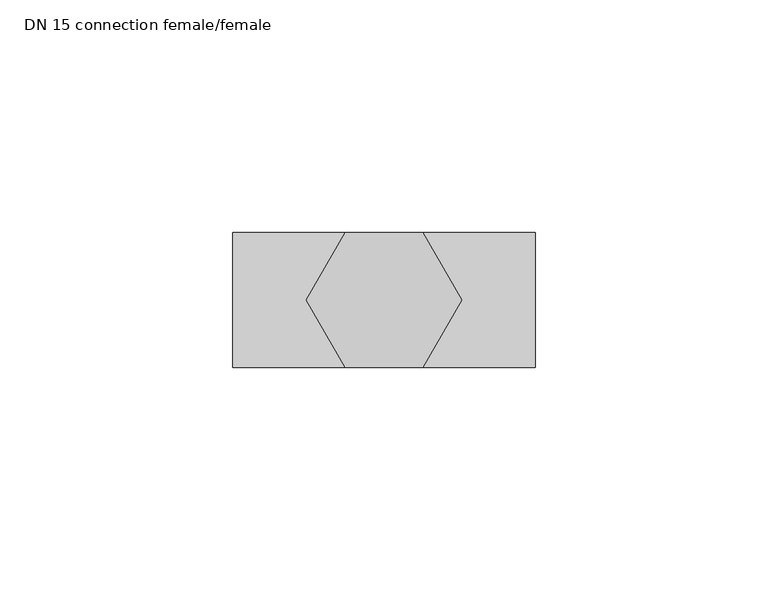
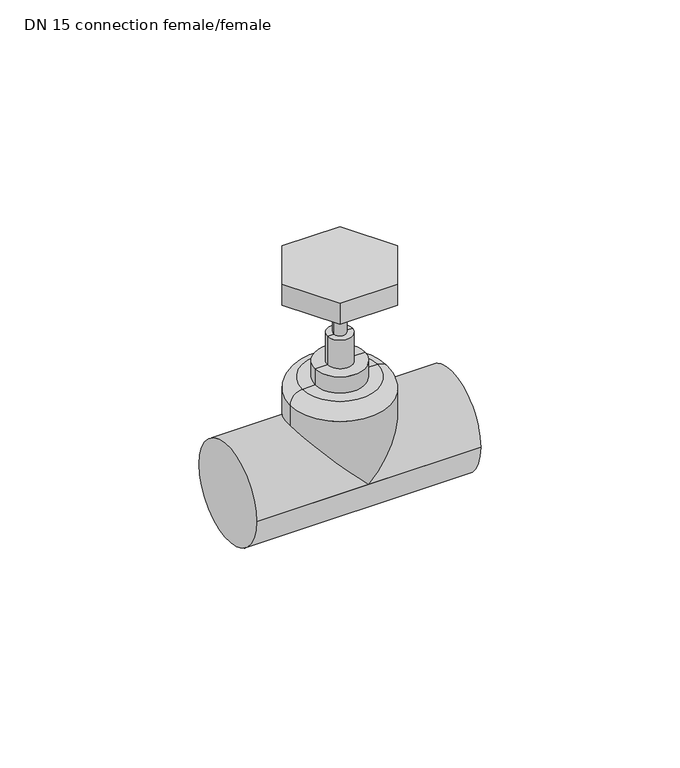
"""IFC4 building model written with IfcOpenShell, lengths in millimetres: valve geometry, PP-R_Valve : DN 15 connection female/female."""

from ifc_helpers import new_model, si_unit, point, frame, origin, place, context, project, spatial, polyline, circle_curve, ellipse_curve, trimmed, outline, extrude, source, transform, mapped, element, save
from ifc_brep_helpers import plane_surface, cylinder_surface, revolved_surface, advanced_brep


def dn_15_connection_female_female_5b43c6f1(model_context):
    return source(origin(), model_context, "Body", "SolidModel", [
        extrude(outline(polyline([(66.2588206, 0.0), (57.8872417, -14.5), (41.1440838, -14.5), (32.7725049, 0.0), (41.1440838, 14.5), (57.8872417, 14.5), (66.2588206, 0.0)])), frame((0.0, 0.0, 52.0), z_axis=(0.0, 0.0, 1.0), x_axis=(1.0, 0.0, 0.0)), (0.0, 0.0, 1.0), 6.5),
        advanced_brep(
        [(49.5156627, 0.0, 52.0), (51.3281627, 0.0, 52.0), (47.7031627, 0.0, 52.0), (45.8906627, 0.0, 29.25), (53.1406627, 0.0, 29.25), (49.5156627, 0.0, 29.25), (45.8906627, 0.0, 37.875), (53.1406627, 0.0, 37.875), (47.7031627, 0.0, 37.875), (51.3281627, 0.0, 37.875)],
        [
            (0, 1),
            (1, 2, circle_curve(frame((49.5156627, 0.0, 52.0), z_axis=(0.0, 0.0, 1.0), x_axis=(1.0, 0.0, 0.0)), 1.8125)),
            (2, 0),
            (2, 1, circle_curve(frame((49.5156627, 0.0, 52.0), z_axis=(0.0, 0.0, 1.0), x_axis=(1.0, 0.0, 0.0)), 1.8125)),
            (3, 4, circle_curve(frame((49.5156627, 0.0, 29.25), z_axis=(0.0, 0.0, -1.0), x_axis=(1.0, 0.0, 0.0)), 3.625)),
            (4, 5),
            (5, 3),
            (4, 3, circle_curve(frame((49.5156627, 0.0, 29.25), z_axis=(0.0, 0.0, -1.0), x_axis=(1.0, 0.0, 0.0)), 3.625)),
            (6, 7, circle_curve(frame((49.5156627, 0.0, 37.875), z_axis=(0.0, 0.0, -1.0), x_axis=(1.0, 0.0, 0.0)), 3.625)),
            (7, 4),
            (3, 6),
            (7, 6, circle_curve(frame((49.5156627, 0.0, 37.875), z_axis=(0.0, 0.0, -1.0), x_axis=(1.0, 0.0, 0.0)), 3.625)),
            (8, 9, circle_curve(frame((49.5156627, 0.0, 37.875), z_axis=(0.0, 0.0, -1.0), x_axis=(1.0, 0.0, 0.0)), 1.8125)),
            (9, 7),
            (6, 8),
            (9, 8, circle_curve(frame((49.5156627, 0.0, 37.875), z_axis=(0.0, 0.0, -1.0), x_axis=(1.0, 0.0, 0.0)), 1.8125)),
            (1, 9),
            (8, 2),
        ],
        [
            plane_surface(frame((49.5156627, 0.0, 52.0), z_axis=(0.0, 0.0, 1.0), x_axis=(1.0, 0.0, 0.0))),
            plane_surface(frame((49.5156627, 0.0, 29.25), z_axis=(0.0, 0.0, -1.0), x_axis=(1.0, 0.0, 0.0))),
            cylinder_surface(frame((49.5156627, 0.0, 142.0), z_axis=(0.0, 0.0, 1.0), x_axis=(1.0, 0.0, 0.0)), 3.625),
            plane_surface(frame((49.5156627, 0.0, 37.875), z_axis=(0.0, 0.0, 1.0), x_axis=(1.0, 0.0, 0.0))),
            cylinder_surface(frame((49.5156627, 0.0, 142.0), z_axis=(0.0, 0.0, 1.0), x_axis=(1.0, 0.0, 0.0)), 1.8125),
        ],
        [
            (0, [[1, 2, 3]]),
            (0, [[-3, 4, -1]]),
            (1, [[5, 6, 7]]),
            (1, [[8, -7, -6]]),
            (2, [[9, 10, -5, 11]]),
            (2, [[12, -11, -8, -10]]),
            (3, [[13, 14, -9, 15]]),
            (3, [[16, -15, -12, -14]]),
            (4, [[-2, 17, -13, 18]]),
            (4, [[-4, -18, -16, -17]]),
        ],
    ),
        advanced_brep(
        [(49.5156627, 0.0, 29.25), (56.7656627, 0.0, 29.25), (42.2656627, 0.0, 29.25), (38.6406627, 0.0, 24.25), (42.2656627, 0.0, 24.25), (56.7656627, 0.0, 24.25), (60.3906627, 0.0, 24.25), (64.0156627, 0.0, 20.625), (35.0156627, 0.0, 20.625), (64.0156627, 0.0, 14.5), (49.5156627, 14.5, 0.0), (35.0156627, 0.0, 14.5), (49.5156627, -14.5, 0.0), (82.0156627, -14.5, 0.0), (82.0156627, 14.5, 0.0), (17.0156627, -14.5, 0.0), (17.0156627, 14.5, 0.0)],
        [
            (0, 1),
            (1, 2, circle_curve(frame((49.5156627, 0.0, 29.25), z_axis=(0.0, 0.0, 1.0), x_axis=(1.0, 0.0, 0.0)), 7.25)),
            (2, 0),
            (2, 1, circle_curve(frame((49.5156627, 0.0, 29.25), z_axis=(0.0, 0.0, 1.0), x_axis=(1.0, 0.0, 0.0)), 7.25)),
            (3, 4),
            (4, 5, circle_curve(frame((49.5156627, 0.0, 24.25), z_axis=(0.0, 0.0, -1.0), x_axis=(1.0, 0.0, 0.0)), 7.25)),
            (5, 6),
            (6, 3, circle_curve(frame((49.5156627, 0.0, 24.25), z_axis=(0.0, 0.0, 1.0), x_axis=(1.0, 0.0, 0.0)), 10.875)),
            (3, 6, circle_curve(frame((49.5156627, 0.0, 24.25), z_axis=(0.0, 0.0, 1.0), x_axis=(1.0, 0.0, 0.0)), 10.875)),
            (5, 4, circle_curve(frame((49.5156627, 0.0, 24.25), z_axis=(0.0, 0.0, -1.0), x_axis=(1.0, 0.0, 0.0)), 7.25)),
            (6, 7, circle_curve(frame((60.3906627, 0.0, 20.625), z_axis=(0.0, 1.0, 0.0), x_axis=(1.0, 0.0, 0.0)), 3.625)),
            (7, 8, circle_curve(frame((49.5156627, 0.0, 20.625), z_axis=(0.0, 0.0, 1.0), x_axis=(1.0, 0.0, 0.0)), 14.5)),
            (8, 3, circle_curve(frame((38.6406627, 0.0, 20.625), z_axis=(0.0, 1.0, 0.0), x_axis=(-1.0, 0.0, 0.0)), 3.625)),
            (8, 7, circle_curve(frame((49.5156627, 0.0, 20.625), z_axis=(0.0, 0.0, 1.0), x_axis=(1.0, 0.0, 0.0)), 14.5)),
            (4, 2),
            (1, 5),
            (7, 9),
            (9, 10, ellipse_curve(frame((49.5156627, 0.0, 0.0), z_axis=(-0.7071067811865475, 0.0, 0.7071067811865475), x_axis=(0.7071067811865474, 0.0, 0.7071067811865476)), 20.5060967, 14.5)),
            (10, 11, ellipse_curve(frame((49.5156627, 0.0, 0.0), z_axis=(0.7071067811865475, 0.0, 0.7071067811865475), x_axis=(-0.7071067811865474, 0.0, 0.7071067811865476)), 20.5060967, 14.5)),
            (11, 8),
            (11, 12, ellipse_curve(frame((49.5156627, 0.0, 0.0), z_axis=(0.7071067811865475, 0.0, 0.7071067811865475), x_axis=(-0.7071067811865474, 0.0, 0.7071067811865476)), 20.5060967, 14.5)),
            (12, 9, ellipse_curve(frame((49.5156627, 0.0, 0.0), z_axis=(-0.7071067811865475, 0.0, 0.7071067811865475), x_axis=(0.7071067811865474, 0.0, 0.7071067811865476)), 20.5060967, 14.5)),
            (13, 14, circle_curve(frame((82.0156627, 0.0, 0.0), z_axis=(1.0, 0.0, 0.0), x_axis=(0.0, 1.0, 0.0)), 14.5)),
            (14, 13, circle_curve(frame((82.0156627, 0.0, 0.0), z_axis=(1.0, 0.0, 0.0), x_axis=(0.0, 1.0, 0.0)), 14.5)),
            (15, 16, circle_curve(frame((17.0156627, 0.0, 0.0), z_axis=(-1.0, 0.0, 0.0), x_axis=(0.0, 1.0, 0.0)), 14.5)),
            (16, 15, circle_curve(frame((17.0156627, 0.0, 0.0), z_axis=(-1.0, 0.0, 0.0), x_axis=(0.0, 1.0, 0.0)), 14.5)),
            (13, 12),
            (12, 15),
            (16, 10),
            (10, 14),
        ],
        [
            plane_surface(frame((49.5156627, 0.0, 29.25), z_axis=(0.0, 0.0, 1.0), x_axis=(1.0, 0.0, 0.0))),
            plane_surface(frame((49.5156627, 0.0, 24.25), z_axis=(0.0, 0.0, 1.0), x_axis=(1.0, 0.0, 0.0))),
            revolved_surface(trimmed(ellipse_curve(frame((60.3906627, 0.0, 20.625), z_axis=(0.0, -1.0, 0.0), x_axis=(1.0, 0.0, 0.0)), 3.625, 3.625), [point((64.0156627, 0.0, 20.625))], [point((60.3906627, 0.0, 24.25))], True, "CARTESIAN"), (49.5156627, 0.0, 98.5), (0.0, 0.0, 1.0)),
            cylinder_surface(frame((49.5156627, 0.0, 98.5), z_axis=(0.0, 0.0, 1.0), x_axis=(1.0, 0.0, 0.0)), 7.25),
            cylinder_surface(frame((49.5156627, 0.0, 83.5), z_axis=(0.0, 0.0, 1.0), x_axis=(1.0, 0.0, 0.0)), 14.5),
            plane_surface(frame((82.0156627, 14.5, 0.0), z_axis=(1.0, 0.0, 0.0), x_axis=(0.0, 0.0, 1.0))),
            plane_surface(frame((17.0156627, 14.5, 0.0), z_axis=(-1.0, 0.0, 0.0), x_axis=(0.0, 0.0, -1.0))),
            cylinder_surface(frame((17.0156627, 0.0, 0.0), z_axis=(1.0, 0.0, 0.0), x_axis=(0.0, 1.0, 0.0)), 14.5),
        ],
        [
            (0, [[1, 2, 3]]),
            (0, [[-1, -3, 4]]),
            (1, [[5, 6, 7, 8]]),
            (1, [[-5, 9, -7, 10]]),
            (2, [[-8, 11, 12, 13]]),
            (2, [[-9, -13, 14, -11]]),
            (3, [[-6, 15, -2, 16]]),
            (3, [[-10, -16, -4, -15]]),
            (4, [[-12, 17, 18, 19, 20]]),
            (4, [[-14, -20, 21, 22, -17]]),
            (5, [[23, 24]]),
            (6, [[25, 26]]),
            (7, [[-23, 27, 28, -26, 29, 30]]),
            (7, [[-24, -30, -18, -22, -27]]),
            (7, [[-25, -28, -21, -19, -29]]),
        ],
    ),
    ])


if __name__ == "__main__":
    model = new_model("IFC4")
    model_context = context("Model", 3, world=origin())
    ifc_project = project(units=[si_unit("LENGTHUNIT", "METRE", prefix="MILLI")], contexts=[model_context])
    site = spatial("IfcSite", under=ifc_project)
    building = spatial("IfcBuilding", under=site)
    placement = place(None, origin())
    dn_15_connection_female_female_shape = dn_15_connection_female_female_5b43c6f1(model_context)
    element("IfcValve", 1, ObjectType="PP-R_Valve : DN 15 connection female/female", at=placement, inside=building, context=model_context, shape_type="MappedRepresentation", body=[
        mapped(dn_15_connection_female_female_shape, transform((0.0, 0.0, 0.0), x_axis=(1.0, 0.0, 0.0), y_axis=(0.0, 1.0, 0.0), z_axis=(0.0, 0.0, 1.0))),
    ])
    save(model, "model.ifc")
